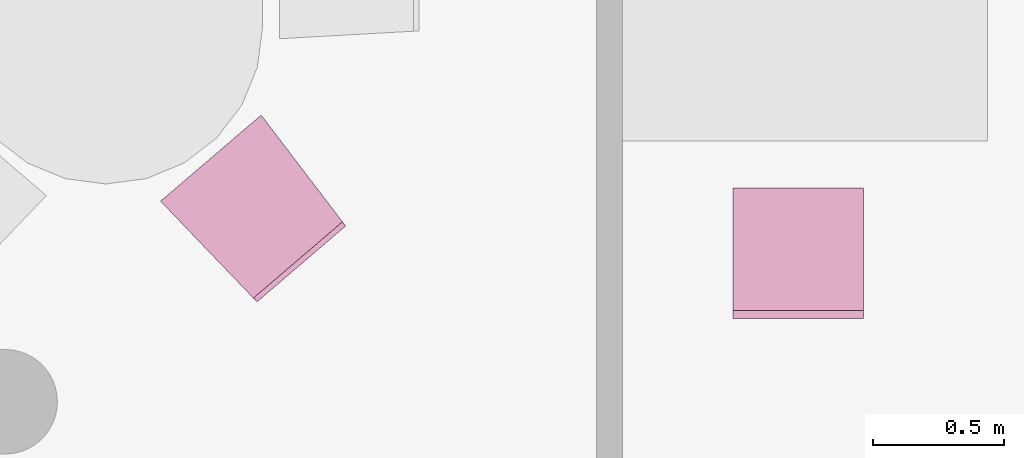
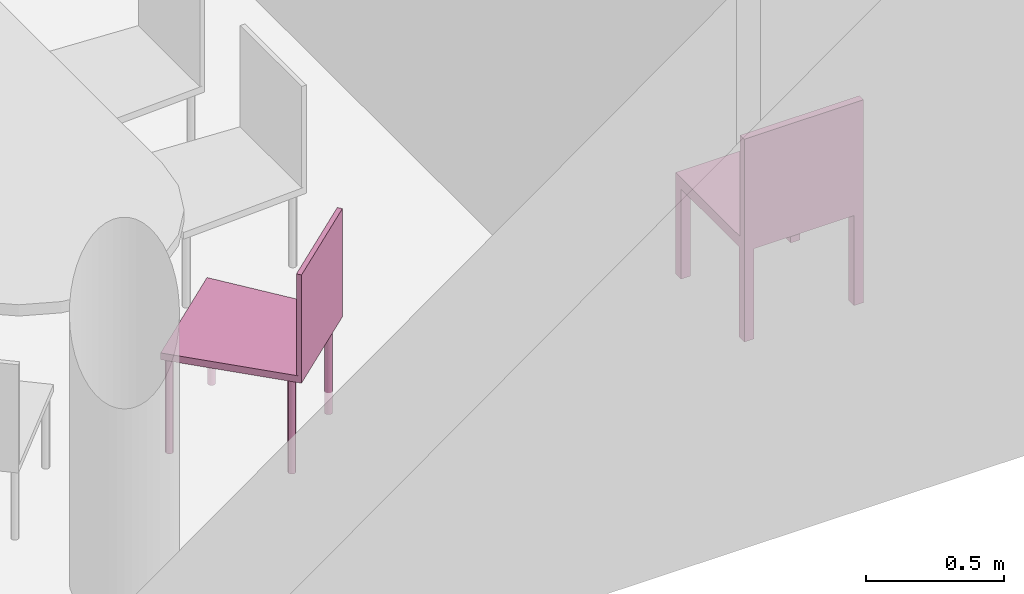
"""IFC4 building model written with IfcOpenShell, lengths in metres."""

from ifc_helpers import new_model, entity, si_unit, converted_unit, derived_unit, frame, origin, place, context, subcontext, project, spatial, faceted_brep, element, save


model = new_model("IFC4")

# Units and contexts
model_context = context("Model", 3, precision=1e-05, world=origin())
body_context = subcontext(model_context, "Body", "Model", "MODEL_VIEW")
ifc_project = project(units=[si_unit("LENGTHUNIT", "METRE"), si_unit("AREAUNIT", "SQUARE_METRE"), si_unit("VOLUMEUNIT", "CUBIC_METRE"), si_unit("MASSUNIT", "GRAM", prefix="KILO"), converted_unit("PLANEANGLEUNIT", "DEGREE", entity("IfcPlaneAngleMeasure", 0.0174532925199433), si_unit("PLANEANGLEUNIT", "RADIAN"), dimensions=[0, 0, 0, 0, 0, 0, 0]), derived_unit("THERMALTRANSMITTANCEUNIT", [(si_unit("POWERUNIT", "WATT"), 1), (si_unit("THERMODYNAMICTEMPERATUREUNIT", "KELVIN"), -1), (si_unit("LENGTHUNIT", "METRE"), -2)]), derived_unit("VOLUMETRICFLOWRATEUNIT", [(si_unit("LENGTHUNIT", "METRE"), 3), (converted_unit("TIMEUNIT", "hour", entity("IfcTimeMeasure", 3600.0), si_unit("TIMEUNIT", "SECOND"), dimensions=[0, 0, 1, 0, 0, 0, 0]), -1), (si_unit("LENGTHUNIT", "METRE"), -1)])], contexts=[model_context])

# Building, storeys
building_placement = place(None, origin())
building = spatial("IfcBuilding", under=ifc_project, at=building_placement, Name="HABITATGE PLURIFAMILIAR", CompositionType="ELEMENT")
storey_1_placement = place(building_placement, frame((0.0, 0.0, 9.26)))
storey_1 = spatial("IfcBuildingStorey", under=building, at=storey_1_placement, Name="PLANTA SEGONA", CompositionType="ELEMENT", Elevation=9.26)
storey_2_placement = place(storey_1_placement, frame((0.0, 0.0, 6.25)))
storey_2 = spatial("IfcBuildingStorey", under=storey_1, at=storey_2_placement, Name="NOU", CompositionType="PARTIAL")

# Furniture
furniture_1_placement = place(storey_2_placement, frame((418.921781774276, 13.9682557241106, -6.34632642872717)))
element("IfcFurniture", 1, at=furniture_1_placement, inside=storey_2, Name="Cadira d'Oficina_P2", context=body_context, shape_type="Brep", body=[
    faceted_brep([(0.5, 0.5, 0.4), (0.0, 0.500000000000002, 0.4), (0.0, 0.0, 0.4), (0.5, 0.0, 0.4), (0.5, 0.0, 0.45), (0.0, 0.0, 0.45), (0.0, 0.500000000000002, 0.45), (0.5, 0.5, 0.45)], [[[0, 1, 2, 3]], [[4, 5, 6, 7]], [[3, 4, 7, 0]], [[2, 5, 4, 3]], [[1, 6, 5, 2]], [[0, 7, 6, 1]]], orient=[[False], [False], [False], [False], [False], [False]]),
    faceted_brep([(0.0, 0.0400000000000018, 0.0), (0.0, 0.0, 0.0), (0.04, 0.0, 0.0), (0.04, 0.0400000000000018, 0.0), (0.04, 0.0400000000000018, 0.4), (0.04, 0.0, 0.4), (0.0, 0.0, 0.4), (0.0, 0.0400000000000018, 0.4)], [[[0, 1, 2, 3]], [[4, 5, 6, 7]], [[3, 4, 7, 0]], [[2, 5, 4, 3]], [[1, 6, 5, 2]], [[0, 7, 6, 1]]], orient=[[False], [False], [False], [False], [False], [False]]),
    faceted_brep([(0.0, 0.500000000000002, 0.0), (0.0, 0.460000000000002, 0.0), (0.04, 0.460000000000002, 0.0), (0.04, 0.500000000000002, 0.0), (0.04, 0.500000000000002, 0.4), (0.04, 0.460000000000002, 0.4), (0.0, 0.460000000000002, 0.4), (0.0, 0.500000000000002, 0.4)], [[[0, 1, 2, 3]], [[4, 5, 6, 7]], [[3, 4, 7, 0]], [[2, 5, 4, 3]], [[1, 6, 5, 2]], [[0, 7, 6, 1]]], orient=[[False], [False], [False], [False], [False], [False]]),
    faceted_brep([(0.46, 0.04, 0.0), (0.46, 0.0, 0.0), (0.5, 0.0, 0.0), (0.5, 0.04, 0.0), (0.5, 0.04, 0.4), (0.5, 0.0, 0.4), (0.46, 0.0, 0.4), (0.46, 0.04, 0.4)], [[[0, 1, 2, 3]], [[4, 5, 6, 7]], [[3, 4, 7, 0]], [[2, 5, 4, 3]], [[1, 6, 5, 2]], [[0, 7, 6, 1]]], orient=[[False], [False], [False], [False], [False], [False]]),
    faceted_brep([(0.46, 0.5, 0.0), (0.46, 0.46, 0.0), (0.5, 0.46, 0.0), (0.5, 0.5, 0.0), (0.5, 0.5, 0.4), (0.5, 0.46, 0.4), (0.46, 0.46, 0.4), (0.46, 0.5, 0.4)], [[[0, 1, 2, 3]], [[4, 5, 6, 7]], [[3, 4, 7, 0]], [[2, 5, 4, 3]], [[1, 6, 5, 2]], [[0, 7, 6, 1]]], orient=[[False], [False], [False], [False], [False], [False]]),
    faceted_brep([(0.0, 0.0300000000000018, 0.45), (0.0, 0.0, 0.45), (0.5, 0.0, 0.45), (0.5, 0.03, 0.45), (0.5, 0.03, 0.9), (0.5, 0.0, 0.9), (0.0, 0.0, 0.9), (0.0, 0.0300000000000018, 0.9)], [[[0, 1, 2, 3]], [[4, 5, 6, 7]], [[3, 4, 7, 0]], [[2, 5, 4, 3]], [[1, 6, 5, 2]], [[0, 7, 6, 1]]], orient=[[False], [False], [False], [False], [False], [False]]),
])
furniture_2_placement = place(storey_2_placement, frame((416.731797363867, 14.0318403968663, -6.34772322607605)))
element("IfcFurniture", 2, at=furniture_2_placement, inside=storey_2, Name="Cadira confident_P2", context=body_context, shape_type="Brep", body=[
    faceted_brep([(0.0460746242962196, 0.391603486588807, 0.0), (0.0442159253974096, 0.393427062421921, 0.0), (0.0420688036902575, 0.394900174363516, 0.0), (0.03969849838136, 0.395978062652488, 0.0), (0.0371770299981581, 0.396627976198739, 0.0), (0.0345810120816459, 0.396830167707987, 0.0), (0.031989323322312, 0.396578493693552, 0.0), (0.0294807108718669, 0.395880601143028, 0.0), (0.0271313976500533, 0.394757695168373, 0.0), (0.0250127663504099, 0.393243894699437, 0.0), (0.0231891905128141, 0.391385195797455, 0.0), (0.0217160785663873, 0.389238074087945, 0.0), (0.0206381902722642, 0.38686776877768, 0.0), (0.0199882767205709, 0.384346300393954, 0.0), (0.0197860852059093, 0.381750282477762, 0.0), (0.0200377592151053, 0.379158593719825, 0.0), (0.0207356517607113, 0.376649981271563, 0.0), (0.0218585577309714, 0.374300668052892, 0.0), (0.0233723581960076, 0.372182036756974, 0.0), (0.0252310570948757, 0.370358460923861, 0.0), (0.0273781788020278, 0.368885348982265, 0.0), (0.0297484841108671, 0.367807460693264, 0.0), (0.032269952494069, 0.367157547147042, 0.0), (0.0348659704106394, 0.366955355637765, 0.0), (0.0374576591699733, 0.3672070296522, 0.0), (0.0399662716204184, 0.367904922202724, 0.0), (0.0423155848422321, 0.369027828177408, 0.0), (0.0444342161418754, 0.370541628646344, 0.0), (0.0462577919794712, 0.372400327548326, 0.0), (0.047730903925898, 0.374547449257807, 0.0), (0.0488087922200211, 0.376917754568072, 0.0), (0.0494587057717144, 0.379439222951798, 0.0), (0.0496608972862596, 0.38203524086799, 0.0), (0.0494092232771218, 0.384626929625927, 0.0), (0.048711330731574, 0.387135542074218, 0.0), (0.0475884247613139, 0.389484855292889, 0.0), (0.0460746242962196, 0.391603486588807, 0.448281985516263), (0.0475884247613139, 0.389484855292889, 0.448281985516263), (0.048711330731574, 0.387135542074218, 0.448281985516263), (0.0494092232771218, 0.384626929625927, 0.448281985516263), (0.0496608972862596, 0.38203524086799, 0.448281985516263), (0.0494587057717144, 0.379439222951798, 0.448281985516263), (0.0488087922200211, 0.376917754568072, 0.448281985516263), (0.047730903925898, 0.374547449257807, 0.448281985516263), (0.0462577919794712, 0.372400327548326, 0.448281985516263), (0.0444342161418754, 0.370541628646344, 0.448281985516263), (0.0423155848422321, 0.369027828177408, 0.448281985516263), (0.0399662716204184, 0.367904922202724, 0.448281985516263), (0.0374576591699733, 0.3672070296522, 0.448281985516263), (0.0348659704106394, 0.366955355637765, 0.448281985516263), (0.032269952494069, 0.367157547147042, 0.448281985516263), (0.0297484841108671, 0.367807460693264, 0.448281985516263), (0.0273781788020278, 0.368885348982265, 0.448281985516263), (0.0252310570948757, 0.370358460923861, 0.448281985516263), (0.0233723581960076, 0.372182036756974, 0.448281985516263), (0.0218585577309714, 0.374300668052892, 0.448281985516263), (0.0207356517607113, 0.376649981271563, 0.448281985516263), (0.0200377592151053, 0.379158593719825, 0.448281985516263), (0.0197860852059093, 0.381750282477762, 0.448281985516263), (0.0199882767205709, 0.384346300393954, 0.448281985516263), (0.0206381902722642, 0.38686776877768, 0.448281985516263), (0.0217160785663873, 0.389238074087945, 0.448281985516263), (0.0231891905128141, 0.391385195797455, 0.448281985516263), (0.0250127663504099, 0.393243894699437, 0.448281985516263), (0.0271313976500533, 0.394757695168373, 0.448281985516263), (0.0294807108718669, 0.395880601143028, 0.448281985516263), (0.031989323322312, 0.396578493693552, 0.448281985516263), (0.0345810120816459, 0.396830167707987, 0.448281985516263), (0.0371770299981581, 0.396627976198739, 0.448281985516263), (0.03969849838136, 0.395978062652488, 0.448281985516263), (0.0420688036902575, 0.394900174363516, 0.448281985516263), (0.0442159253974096, 0.393427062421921, 0.448281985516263)], [[[0, 1, 2, 3, 4, 5, 6, 7, 8, 9, 10, 11, 12, 13, 14, 15, 16, 17, 18, 19, 20, 21, 22, 23, 24, 25, 26, 27, 28, 29, 30, 31, 32, 33, 34, 35]], [[36, 37, 38, 39, 40, 41, 42, 43, 44, 45, 46, 47, 48, 49, 50, 51, 52, 53, 54, 55, 56, 57, 58, 59, 60, 61, 62, 63, 64, 65, 66, 67, 68, 69, 70, 71]], [[35, 37, 36, 0]], [[34, 38, 37, 35]], [[33, 39, 38, 34]], [[32, 40, 39, 33]], [[31, 41, 40, 32]], [[30, 42, 41, 31]], [[29, 43, 42, 30]], [[28, 44, 43, 29]], [[27, 45, 44, 28]], [[26, 46, 45, 27]], [[25, 47, 46, 26]], [[24, 48, 47, 25]], [[23, 49, 48, 24]], [[22, 50, 49, 23]], [[21, 51, 50, 22]], [[20, 52, 51, 21]], [[19, 53, 52, 20]], [[18, 54, 53, 19]], [[17, 55, 54, 18]], [[16, 56, 55, 17]], [[15, 57, 56, 16]], [[14, 58, 57, 15]], [[13, 59, 58, 14]], [[12, 60, 59, 13]], [[11, 61, 60, 12]], [[10, 62, 61, 11]], [[9, 63, 62, 10]], [[8, 64, 63, 9]], [[7, 65, 64, 8]], [[6, 66, 65, 7]], [[5, 67, 66, 6]], [[4, 68, 67, 5]], [[3, 69, 68, 4]], [[2, 70, 69, 3]], [[1, 71, 70, 2]], [[0, 36, 71, 1]]], orient=[[False], [False], [False], [False], [False], [False], [False], [False], [False], [False], [False], [False], [False], [False], [False], [False], [False], [False], [False], [False], [False], [False], [False], [False], [False], [False], [False], [False], [False], [False], [False], [False], [False], [False], [False], [False], [False], [False]]),
    faceted_brep([(0.367670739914, 0.0581967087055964, 0.0), (0.365812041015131, 0.0600202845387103, 0.0), (0.363664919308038, 0.0614933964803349, 0.0), (0.36129461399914, 0.0625712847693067, 0.0), (0.358773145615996, 0.0632211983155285, 0.0), (0.356177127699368, 0.0634233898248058, 0.0), (0.353585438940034, 0.0631717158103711, 0.0), (0.351076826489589, 0.0624738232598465, 0.0), (0.348727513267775, 0.0613509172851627, 0.0), (0.346608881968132, 0.0598371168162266, 0.0), (0.344785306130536, 0.0579784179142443, 0.0), (0.343312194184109, 0.0558312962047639, 0.0), (0.342234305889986, 0.0534609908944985, 0.0), (0.341584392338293, 0.0509395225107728, 0.0), (0.341382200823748, 0.0483435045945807, 0.0), (0.341633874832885, 0.0457518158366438, 0.0), (0.342331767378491, 0.0432432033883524, 0.0), (0.343454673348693, 0.040893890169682, 0.0), (0.344968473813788, 0.038775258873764, 0.0), (0.346827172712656, 0.0369516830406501, 0.0), (0.34897429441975, 0.0354785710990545, 0.0), (0.351344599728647, 0.0344006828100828, 0.0), (0.353866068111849, 0.0337507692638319, 0.0), (0.356462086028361, 0.0335485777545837, 0.0), (0.359053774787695, 0.0338002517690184, 0.0), (0.36156238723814, 0.0344981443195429, 0.0), (0.363911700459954, 0.0356210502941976, 0.0), (0.366030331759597, 0.0371348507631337, 0.0), (0.367853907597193, 0.038993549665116, 0.0), (0.36932701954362, 0.0411406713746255, 0.0), (0.370404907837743, 0.0435109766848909, 0.0), (0.371054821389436, 0.0460324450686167, 0.0), (0.371257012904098, 0.0486284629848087, 0.0), (0.371005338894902, 0.0512201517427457, 0.0), (0.370307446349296, 0.0537287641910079, 0.0), (0.369184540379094, 0.0560780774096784, 0.0), (0.367670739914, 0.0581967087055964, 0.448281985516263), (0.369184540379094, 0.0560780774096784, 0.448281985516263), (0.370307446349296, 0.0537287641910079, 0.448281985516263), (0.371005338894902, 0.0512201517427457, 0.448281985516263), (0.371257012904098, 0.0486284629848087, 0.448281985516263), (0.371054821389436, 0.0460324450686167, 0.448281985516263), (0.370404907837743, 0.0435109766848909, 0.448281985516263), (0.36932701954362, 0.0411406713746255, 0.448281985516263), (0.367853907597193, 0.038993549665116, 0.448281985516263), (0.366030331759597, 0.0371348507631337, 0.448281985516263), (0.363911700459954, 0.0356210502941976, 0.448281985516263), (0.36156238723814, 0.0344981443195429, 0.448281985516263), (0.359053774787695, 0.0338002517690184, 0.448281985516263), (0.356462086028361, 0.0335485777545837, 0.448281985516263), (0.353866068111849, 0.0337507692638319, 0.448281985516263), (0.351344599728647, 0.0344006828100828, 0.448281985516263), (0.34897429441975, 0.0354785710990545, 0.448281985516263), (0.346827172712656, 0.0369516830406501, 0.448281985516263), (0.344968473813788, 0.038775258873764, 0.448281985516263), (0.343454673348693, 0.040893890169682, 0.448281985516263), (0.342331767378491, 0.0432432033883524, 0.448281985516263), (0.341633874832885, 0.0457518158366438, 0.448281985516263), (0.341382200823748, 0.0483435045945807, 0.448281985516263), (0.341584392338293, 0.0509395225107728, 0.448281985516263), (0.342234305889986, 0.0534609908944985, 0.448281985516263), (0.343312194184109, 0.0558312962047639, 0.448281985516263), (0.344785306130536, 0.0579784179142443, 0.448281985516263), (0.346608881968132, 0.0598371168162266, 0.448281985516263), (0.348727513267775, 0.0613509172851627, 0.448281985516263), (0.351076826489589, 0.0624738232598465, 0.448281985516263), (0.353585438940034, 0.0631717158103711, 0.448281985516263), (0.356177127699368, 0.0634233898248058, 0.448281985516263), (0.358773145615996, 0.0632211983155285, 0.448281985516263), (0.36129461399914, 0.0625712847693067, 0.448281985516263), (0.363664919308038, 0.0614933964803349, 0.448281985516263), (0.365812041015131, 0.0600202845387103, 0.448281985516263)], [[[0, 1, 2, 3, 4, 5, 6, 7, 8, 9, 10, 11, 12, 13, 14, 15, 16, 17, 18, 19, 20, 21, 22, 23, 24, 25, 26, 27, 28, 29, 30, 31, 32, 33, 34, 35]], [[36, 37, 38, 39, 40, 41, 42, 43, 44, 45, 46, 47, 48, 49, 50, 51, 52, 53, 54, 55, 56, 57, 58, 59, 60, 61, 62, 63, 64, 65, 66, 67, 68, 69, 70, 71]], [[35, 37, 36, 0]], [[34, 38, 37, 35]], [[33, 39, 38, 34]], [[32, 40, 39, 33]], [[31, 41, 40, 32]], [[30, 42, 41, 31]], [[29, 43, 42, 30]], [[28, 44, 43, 29]], [[27, 45, 44, 28]], [[26, 46, 45, 27]], [[25, 47, 46, 26]], [[24, 48, 47, 25]], [[23, 49, 48, 24]], [[22, 50, 49, 23]], [[21, 51, 50, 22]], [[20, 52, 51, 21]], [[19, 53, 52, 20]], [[18, 54, 53, 19]], [[17, 55, 54, 18]], [[16, 56, 55, 17]], [[15, 57, 56, 16]], [[14, 58, 57, 15]], [[13, 59, 58, 14]], [[12, 60, 59, 13]], [[11, 61, 60, 12]], [[10, 62, 61, 11]], [[9, 63, 62, 10]], [[8, 64, 63, 9]], [[7, 65, 64, 8]], [[6, 66, 65, 7]], [[5, 67, 66, 6]], [[4, 68, 67, 5]], [[3, 69, 68, 4]], [[2, 70, 69, 3]], [[1, 71, 70, 2]], [[0, 36, 71, 1]]], orient=[[False], [False], [False], [False], [False], [False], [False], [False], [False], [False], [False], [False], [False], [False], [False], [False], [False], [False], [False], [False], [False], [False], [False], [False], [False], [False], [False], [False], [False], [False], [False], [False], [False], [False], [False], [False], [False], [False]]),
    faceted_brep([(0.395618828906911, 0.69063333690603, 0.0), (0.393760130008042, 0.692456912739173, 0.0), (0.39161300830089, 0.69393002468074, 0.0), (0.389242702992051, 0.695007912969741, 0.0), (0.386721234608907, 0.695657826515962, 0.0), (0.384125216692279, 0.695860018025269, 0.0), (0.381533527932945, 0.695608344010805, 0.0), (0.3790249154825, 0.694910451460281, 0.0), (0.376675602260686, 0.693787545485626, 0.0), (0.374556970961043, 0.69227374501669, 0.0), (0.372733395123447, 0.690415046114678, 0.0), (0.371260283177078, 0.688267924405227, 0.0), (0.370182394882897, 0.685897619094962, 0.0), (0.369532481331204, 0.683376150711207, 0.0), (0.3693302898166, 0.680780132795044, 0.0), (0.369581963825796, 0.678188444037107, 0.0), (0.370279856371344, 0.675679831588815, 0.0), (0.371402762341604, 0.673330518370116, 0.0), (0.372916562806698, 0.671211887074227, 0.0), (0.374775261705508, 0.669388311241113, 0.0), (0.376922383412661, 0.667915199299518, 0.0), (0.379292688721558, 0.666837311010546, 0.0), (0.38181415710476, 0.666187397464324, 0.0), (0.384410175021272, 0.665985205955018, 0.0), (0.387001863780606, 0.666236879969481, 0.0), (0.389510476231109, 0.666934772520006, 0.0), (0.391859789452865, 0.668057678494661, 0.0), (0.393978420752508, 0.669571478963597, 0.0), (0.395801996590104, 0.671430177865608, 0.0), (0.397275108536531, 0.673577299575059, 0.0), (0.398352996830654, 0.675947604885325, 0.0), (0.399002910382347, 0.67846907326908, 0.0), (0.399205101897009, 0.681065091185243, 0.0), (0.398953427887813, 0.68365677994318, 0.0), (0.398255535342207, 0.686165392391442, 0.0), (0.397132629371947, 0.68851470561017, 0.0), (0.395618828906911, 0.69063333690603, 0.448281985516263), (0.397132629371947, 0.68851470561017, 0.448281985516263), (0.398255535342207, 0.686165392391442, 0.448281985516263), (0.398953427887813, 0.68365677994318, 0.448281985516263), (0.399205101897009, 0.681065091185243, 0.448281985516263), (0.399002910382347, 0.67846907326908, 0.448281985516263), (0.398352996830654, 0.675947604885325, 0.448281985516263), (0.397275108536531, 0.673577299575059, 0.448281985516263), (0.395801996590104, 0.671430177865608, 0.448281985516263), (0.393978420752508, 0.669571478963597, 0.448281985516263), (0.391859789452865, 0.668057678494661, 0.448281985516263), (0.389510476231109, 0.666934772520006, 0.448281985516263), (0.387001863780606, 0.666236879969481, 0.448281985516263), (0.384410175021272, 0.665985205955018, 0.448281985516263), (0.38181415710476, 0.666187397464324, 0.448281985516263), (0.379292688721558, 0.666837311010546, 0.448281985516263), (0.376922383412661, 0.667915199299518, 0.448281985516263), (0.374775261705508, 0.669388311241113, 0.448281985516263), (0.372916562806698, 0.671211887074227, 0.448281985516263), (0.371402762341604, 0.673330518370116, 0.448281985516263), (0.370279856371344, 0.675679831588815, 0.448281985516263), (0.369581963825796, 0.678188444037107, 0.448281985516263), (0.3693302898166, 0.680780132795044, 0.448281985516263), (0.369532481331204, 0.683376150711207, 0.448281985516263), (0.370182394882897, 0.685897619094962, 0.448281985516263), (0.371260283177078, 0.688267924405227, 0.448281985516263), (0.372733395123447, 0.690415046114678, 0.448281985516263), (0.374556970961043, 0.69227374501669, 0.448281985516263), (0.376675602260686, 0.693787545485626, 0.448281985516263), (0.3790249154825, 0.694910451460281, 0.448281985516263), (0.381533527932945, 0.695608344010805, 0.448281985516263), (0.384125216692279, 0.695860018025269, 0.448281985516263), (0.386721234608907, 0.695657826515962, 0.448281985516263), (0.389242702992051, 0.695007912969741, 0.448281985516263), (0.39161300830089, 0.69393002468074, 0.448281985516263), (0.393760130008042, 0.692456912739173, 0.448281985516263)], [[[0, 1, 2, 3, 4, 5, 6, 7, 8, 9, 10, 11, 12, 13, 14, 15, 16, 17, 18, 19, 20, 21, 22, 23, 24, 25, 26, 27, 28, 29, 30, 31, 32, 33, 34, 35]], [[36, 37, 38, 39, 40, 41, 42, 43, 44, 45, 46, 47, 48, 49, 50, 51, 52, 53, 54, 55, 56, 57, 58, 59, 60, 61, 62, 63, 64, 65, 66, 67, 68, 69, 70, 71]], [[35, 37, 36, 0]], [[34, 38, 37, 35]], [[33, 39, 38, 34]], [[32, 40, 39, 33]], [[31, 41, 40, 32]], [[30, 42, 41, 31]], [[29, 43, 42, 30]], [[28, 44, 43, 29]], [[27, 45, 44, 28]], [[26, 46, 45, 27]], [[25, 47, 46, 26]], [[24, 48, 47, 25]], [[23, 49, 48, 24]], [[22, 50, 49, 23]], [[21, 51, 50, 22]], [[20, 52, 51, 21]], [[19, 53, 52, 20]], [[18, 54, 53, 19]], [[17, 55, 54, 18]], [[16, 56, 55, 17]], [[15, 57, 56, 16]], [[14, 58, 57, 15]], [[13, 59, 58, 14]], [[12, 60, 59, 13]], [[11, 61, 60, 12]], [[10, 62, 61, 11]], [[9, 63, 62, 10]], [[8, 64, 63, 9]], [[7, 65, 64, 8]], [[6, 66, 65, 7]], [[5, 67, 66, 6]], [[4, 68, 67, 5]], [[3, 69, 68, 4]], [[2, 70, 69, 3]], [[1, 71, 70, 2]], [[0, 36, 71, 1]]], orient=[[False], [False], [False], [False], [False], [False], [False], [False], [False], [False], [False], [False], [False], [False], [False], [False], [False], [False], [False], [False], [False], [False], [False], [False], [False], [False], [False], [False], [False], [False], [False], [False], [False], [False], [False], [False], [False], [False]]),
    faceted_brep([(0.671622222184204, 0.318222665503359, 0.0), (0.669763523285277, 0.320046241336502, 0.0), (0.667616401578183, 0.321519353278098, 0.0), (0.665246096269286, 0.322597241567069, 0.0), (0.662724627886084, 0.323247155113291, 0.0), (0.660128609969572, 0.323449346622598, 0.0), (0.657536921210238, 0.323197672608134, 0.0), (0.655028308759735, 0.322499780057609, 0.0), (0.652678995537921, 0.321376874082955, 0.0), (0.650560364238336, 0.319863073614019, 0.0), (0.64873678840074, 0.318004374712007, 0.0), (0.647263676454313, 0.315857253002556, 0.0), (0.646185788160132, 0.31348694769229, 0.0), (0.645535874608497, 0.310965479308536, 0.0), (0.645333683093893, 0.308369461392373, 0.0), (0.645585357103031, 0.305777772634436, 0.0), (0.646283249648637, 0.303269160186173, 0.0), (0.647406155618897, 0.300919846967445, 0.0), (0.648919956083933, 0.298801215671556, 0.0), (0.650778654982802, 0.296977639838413, 0.0), (0.652925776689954, 0.295504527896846, 0.0), (0.655296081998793, 0.294426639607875, 0.0), (0.657817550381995, 0.293776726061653, 0.0), (0.660413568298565, 0.293574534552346, 0.0), (0.663005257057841, 0.29382620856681, 0.0), (0.665513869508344, 0.294524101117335, 0.0), (0.667863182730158, 0.29564700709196, 0.0), (0.669981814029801, 0.297160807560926, 0.0), (0.671805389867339, 0.299019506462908, 0.0), (0.673278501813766, 0.301166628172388, 0.0), (0.674356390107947, 0.303536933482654, 0.0), (0.67500630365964, 0.306058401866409, 0.0), (0.675208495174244, 0.308654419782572, 0.0), (0.674956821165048, 0.311246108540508, 0.0), (0.6742589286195, 0.313754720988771, 0.0), (0.673136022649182, 0.31610403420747, 0.0), (0.671622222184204, 0.318222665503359, 0.448281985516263), (0.673136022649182, 0.31610403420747, 0.448281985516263), (0.6742589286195, 0.313754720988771, 0.448281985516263), (0.674956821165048, 0.311246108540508, 0.448281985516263), (0.675208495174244, 0.308654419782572, 0.448281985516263), (0.67500630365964, 0.306058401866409, 0.448281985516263), (0.674356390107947, 0.303536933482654, 0.448281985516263), (0.673278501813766, 0.301166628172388, 0.448281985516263), (0.671805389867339, 0.299019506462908, 0.448281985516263), (0.669981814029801, 0.297160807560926, 0.448281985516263), (0.667863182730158, 0.29564700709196, 0.448281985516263), (0.665513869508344, 0.294524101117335, 0.448281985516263), (0.663005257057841, 0.29382620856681, 0.448281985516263), (0.660413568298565, 0.293574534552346, 0.448281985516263), (0.657817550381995, 0.293776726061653, 0.448281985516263), (0.655296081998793, 0.294426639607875, 0.448281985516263), (0.652925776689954, 0.295504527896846, 0.448281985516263), (0.650778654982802, 0.296977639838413, 0.448281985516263), (0.648919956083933, 0.298801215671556, 0.448281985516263), (0.647406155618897, 0.300919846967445, 0.448281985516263), (0.646283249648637, 0.303269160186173, 0.448281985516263), (0.645585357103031, 0.305777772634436, 0.448281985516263), (0.645333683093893, 0.308369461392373, 0.448281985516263), (0.645535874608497, 0.310965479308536, 0.448281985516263), (0.646185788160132, 0.31348694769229, 0.448281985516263), (0.647263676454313, 0.315857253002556, 0.448281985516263), (0.64873678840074, 0.318004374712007, 0.448281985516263), (0.650560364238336, 0.319863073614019, 0.448281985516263), (0.652678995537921, 0.321376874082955, 0.448281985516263), (0.655028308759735, 0.322499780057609, 0.448281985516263), (0.657536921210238, 0.323197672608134, 0.448281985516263), (0.660128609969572, 0.323449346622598, 0.448281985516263), (0.662724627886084, 0.323247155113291, 0.448281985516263), (0.665246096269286, 0.322597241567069, 0.448281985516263), (0.667616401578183, 0.321519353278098, 0.448281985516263), (0.669763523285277, 0.320046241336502, 0.448281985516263)], [[[0, 1, 2, 3, 4, 5, 6, 7, 8, 9, 10, 11, 12, 13, 14, 15, 16, 17, 18, 19, 20, 21, 22, 23, 24, 25, 26, 27, 28, 29, 30, 31, 32, 33, 34, 35]], [[36, 37, 38, 39, 40, 41, 42, 43, 44, 45, 46, 47, 48, 49, 50, 51, 52, 53, 54, 55, 56, 57, 58, 59, 60, 61, 62, 63, 64, 65, 66, 67, 68, 69, 70, 71]], [[35, 37, 36, 0]], [[34, 38, 37, 35]], [[33, 39, 38, 34]], [[32, 40, 39, 33]], [[31, 41, 40, 32]], [[30, 42, 41, 31]], [[29, 43, 42, 30]], [[28, 44, 43, 29]], [[27, 45, 44, 28]], [[26, 46, 45, 27]], [[25, 47, 46, 26]], [[24, 48, 47, 25]], [[23, 49, 48, 24]], [[22, 50, 49, 23]], [[21, 51, 50, 22]], [[20, 52, 51, 21]], [[19, 53, 52, 20]], [[18, 54, 53, 19]], [[17, 55, 54, 18]], [[16, 56, 55, 17]], [[15, 57, 56, 16]], [[14, 58, 57, 15]], [[13, 59, 58, 14]], [[12, 60, 59, 13]], [[11, 61, 60, 12]], [[10, 62, 61, 11]], [[9, 63, 62, 10]], [[8, 64, 63, 9]], [[7, 65, 64, 8]], [[6, 66, 65, 7]], [[5, 67, 66, 6]], [[4, 68, 67, 5]], [[3, 69, 68, 4]], [[2, 70, 69, 3]], [[1, 71, 70, 2]], [[0, 36, 71, 1]]], orient=[[False], [False], [False], [False], [False], [False], [False], [False], [False], [False], [False], [False], [False], [False], [False], [False], [False], [False], [False], [False], [False], [False], [False], [False], [False], [False], [False], [False], [False], [False], [False], [False], [False], [False], [False], [False], [False], [False]]),
    faceted_brep([(0.70832307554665, 0.29026358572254, 0.418281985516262), (0.384889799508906, 0.714482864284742, 0.418281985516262), (0.0, 0.385215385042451, 0.418281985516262), (0.369025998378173, 0.0, 0.418281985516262), (0.384889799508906, 0.714482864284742, 0.448281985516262), (0.70832307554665, 0.29026358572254, 0.448281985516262), (0.369025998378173, 0.0, 0.448281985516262), (0.0, 0.385215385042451, 0.448281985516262)], [[[0, 1, 2, 3]], [[4, 5, 6, 7]], [[1, 0, 5, 4]], [[2, 1, 4, 7]], [[3, 2, 7, 6]], [[0, 3, 6, 5]]], orient=[[False], [False], [False], [False], [False], [False]]),
    faceted_brep([(0.695321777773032, 0.305461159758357, 0.448281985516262), (0.356024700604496, 0.0151975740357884, 0.448281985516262), (0.369025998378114, 0.0, 0.448281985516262), (0.70832307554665, 0.29026358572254, 0.448281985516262), (0.356024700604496, 0.0151975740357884, 0.898281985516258), (0.695321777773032, 0.305461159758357, 0.898281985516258), (0.70832307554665, 0.29026358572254, 0.898281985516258), (0.369025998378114, 0.0, 0.898281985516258)], [[[0, 1, 2, 3]], [[4, 5, 6, 7]], [[1, 0, 5, 4]], [[2, 1, 4, 7]], [[3, 2, 7, 6]], [[0, 3, 6, 5]]], orient=[[False], [False], [False], [False], [False], [False]]),
])

save(model, "model.ifc")
